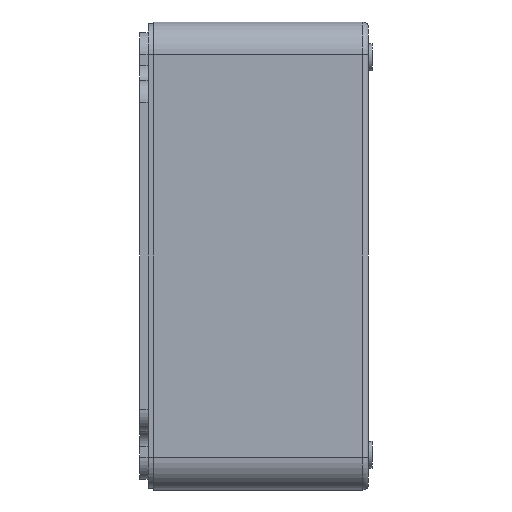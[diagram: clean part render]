
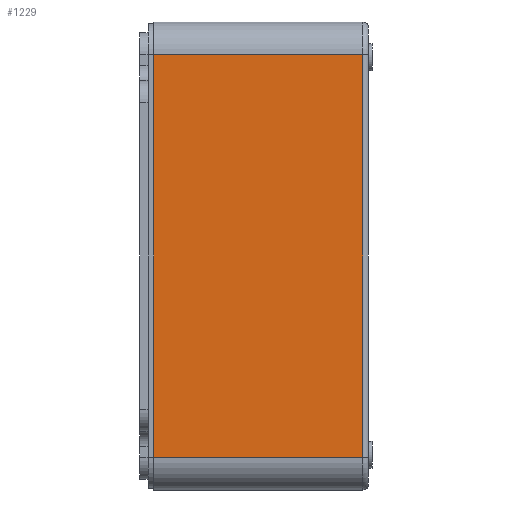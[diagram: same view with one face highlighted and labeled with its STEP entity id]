
A CAD part, left-side view. The second image highlights one B-rep face of the part: STEP entity #1229.
In plain terms, the highlighted planar face has unit normal (-1, 0, 0).
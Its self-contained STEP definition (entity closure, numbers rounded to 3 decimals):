
#203 = VECTOR ( 'NONE', #1032, 1000. ) ;
#851 = CARTESIAN_POINT ( 'NONE',  ( -62.75, -2.5, -36.75 ) ) ;
#969 = CARTESIAN_POINT ( 'NONE',  ( -62.75, -2.5, -42.75 ) ) ;
#988 = CARTESIAN_POINT ( 'NONE',  ( -62.75, -41.75, 36.75 ) ) ;
#1032 = DIRECTION ( 'NONE',  ( 0., 1., 0. ) ) ;
#1229 = ADVANCED_FACE ( 'NONE', ( #5008 ), #4585, .T. ) ;
#1242 = DIRECTION ( 'NONE',  ( 0., 0., 1. ) ) ;
#1266 = CARTESIAN_POINT ( 'NONE',  ( -62.75, -40.75, 36.75 ) ) ;
#1389 = DIRECTION ( 'NONE',  ( 0., 0., -1. ) ) ;
#1616 = EDGE_LOOP ( 'NONE', ( #2827, #5310, #6714, #6007 ) ) ;
#1620 = LINE ( 'NONE', #988, #203 ) ;
#2031 = AXIS2_PLACEMENT_3D ( 'NONE', #4082, #3901, #3631 ) ;
#2049 = VERTEX_POINT ( 'NONE', #851 ) ;
#2259 = CARTESIAN_POINT ( 'NONE',  ( -62.75, -41.75, -36.75 ) ) ;
#2334 = EDGE_CURVE ( 'NONE', #2049, #3877, #6734, .T. ) ;
#2366 = EDGE_CURVE ( 'NONE', #3877, #4170, #5071, .T. ) ;
#2380 = EDGE_CURVE ( 'NONE', #4170, #6433, #1620, .T. ) ;
#2382 = DIRECTION ( 'NONE',  ( 0., -1., 0. ) ) ;
#2393 = EDGE_CURVE ( 'NONE', #6433, #2049, #3043, .T. ) ;
#2635 = VECTOR ( 'NONE', #2382, 1000. ) ;
#2827 = ORIENTED_EDGE ( 'NONE', *, *, #2334, .T. ) ;
#3043 = LINE ( 'NONE', #969, #4271 ) ;
#3182 = CARTESIAN_POINT ( 'NONE',  ( -62.75, -2.5, 36.75 ) ) ;
#3337 = CARTESIAN_POINT ( 'NONE',  ( -62.75, -40.75, -36.75 ) ) ;
#3631 = DIRECTION ( 'NONE',  ( 0., 0., 1. ) ) ;
#3877 = VERTEX_POINT ( 'NONE', #3337 ) ;
#3901 = DIRECTION ( 'NONE',  ( -1., 0., 0. ) ) ;
#4082 = CARTESIAN_POINT ( 'NONE',  ( -62.75, -41.75, -42.75 ) ) ;
#4170 = VERTEX_POINT ( 'NONE', #6277 ) ;
#4271 = VECTOR ( 'NONE', #1389, 1000. ) ;
#4585 = PLANE ( 'NONE',  #2031 ) ;
#5008 = FACE_OUTER_BOUND ( 'NONE', #1616, .T. ) ;
#5071 = LINE ( 'NONE', #1266, #5226 ) ;
#5226 = VECTOR ( 'NONE', #1242, 1000. ) ;
#5310 = ORIENTED_EDGE ( 'NONE', *, *, #2366, .T. ) ;
#6007 = ORIENTED_EDGE ( 'NONE', *, *, #2393, .T. ) ;
#6277 = CARTESIAN_POINT ( 'NONE',  ( -62.75, -40.75, 36.75 ) ) ;
#6433 = VERTEX_POINT ( 'NONE', #3182 ) ;
#6714 = ORIENTED_EDGE ( 'NONE', *, *, #2380, .T. ) ;
#6734 = LINE ( 'NONE', #2259, #2635 ) ;
